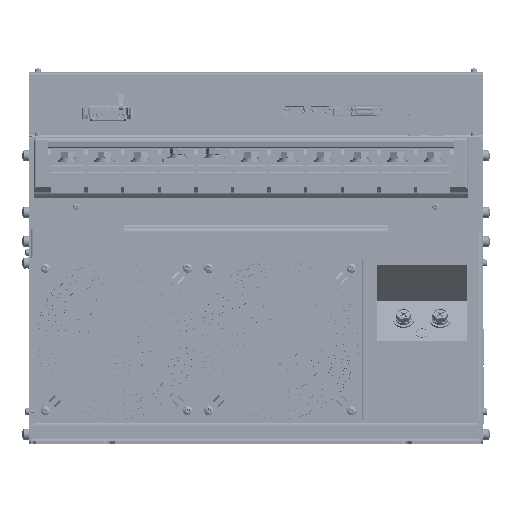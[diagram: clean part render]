
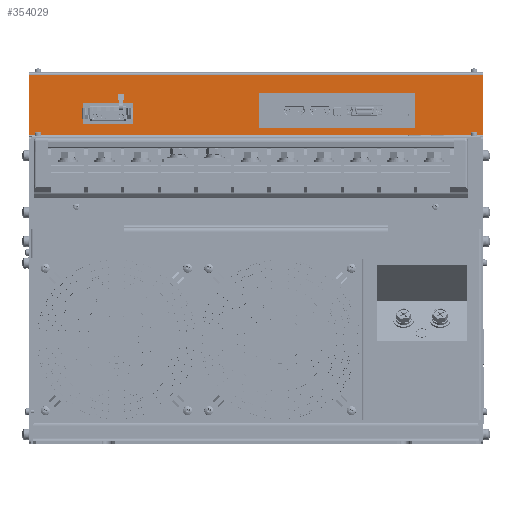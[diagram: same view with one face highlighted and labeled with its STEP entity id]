
A CAD part, front view. The second image highlights one B-rep face of the part: STEP entity #354029.
In plain terms, the highlighted planar face has unit normal (0, -1, 0).
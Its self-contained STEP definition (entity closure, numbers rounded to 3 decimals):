
#1935 = LINE ( 'NONE', #472786, #81811 ) ;
#11204 = DIRECTION ( 'NONE',  ( -1., 0., 0. ) ) ;
#14739 = VERTEX_POINT ( 'NONE', #441284 ) ;
#17425 = CARTESIAN_POINT ( 'NONE',  ( 2.3, 74.5, 286.2 ) ) ;
#21556 = VERTEX_POINT ( 'NONE', #150082 ) ;
#27361 = VERTEX_POINT ( 'NONE', #376679 ) ;
#33447 = VECTOR ( 'NONE', #104401, 1000. ) ;
#44003 = LINE ( 'NONE', #241580, #560616 ) ;
#49899 = VERTEX_POINT ( 'NONE', #273594 ) ;
#53944 = VECTOR ( 'NONE', #174066, 1000. ) ;
#63899 = DIRECTION ( 'NONE',  ( 0., -1., 0. ) ) ;
#65912 = CARTESIAN_POINT ( 'NONE',  ( 0., 74.5, 249. ) ) ;
#67238 = LINE ( 'NONE', #96811, #547596 ) ;
#69939 = PLANE ( 'NONE',  #394764 ) ;
#75500 = ORIENTED_EDGE ( 'NONE', *, *, #135290, .F. ) ;
#79024 = FACE_BOUND ( 'NONE', #165638, .T. ) ;
#80590 = CARTESIAN_POINT ( 'NONE',  ( -151.6, 74.5, 277.6 ) ) ;
#81811 = VECTOR ( 'NONE', #193976, 1000. ) ;
#89776 = EDGE_LOOP ( 'NONE', ( #75500, #323622, #412437, #190254 ) ) ;
#96811 = CARTESIAN_POINT ( 'NONE',  ( 2.3, 74.5, 256.2 ) ) ;
#102068 = VERTEX_POINT ( 'NONE', #225235 ) ;
#104401 = DIRECTION ( 'NONE',  ( 0., 0., -1. ) ) ;
#113595 = VECTOR ( 'NONE', #169533, 1000. ) ;
#119584 = VERTEX_POINT ( 'NONE', #449585 ) ;
#123625 = ORIENTED_EDGE ( 'NONE', *, *, #298524, .F. ) ;
#125236 = VERTEX_POINT ( 'NONE', #412847 ) ;
#135290 = EDGE_CURVE ( 'NONE', #102068, #14739, #439707, .T. ) ;
#142008 = ORIENTED_EDGE ( 'NONE', *, *, #350764, .F. ) ;
#146093 = VERTEX_POINT ( 'NONE', #490428 ) ;
#150018 = VERTEX_POINT ( 'NONE', #17425 ) ;
#150019 = DIRECTION ( 'NONE',  ( 1., 0., 0. ) ) ;
#150082 = CARTESIAN_POINT ( 'NONE',  ( -107.6, 74.5, 259.6 ) ) ;
#162672 = VERTEX_POINT ( 'NONE', #225288 ) ;
#165638 = EDGE_LOOP ( 'NONE', ( #218983, #518349, #236538, #257943 ) ) ;
#169533 = DIRECTION ( 'NONE',  ( -1., 0., 0. ) ) ;
#169813 = CARTESIAN_POINT ( 'NONE',  ( -198.6, 74.5, 302.4 ) ) ;
#174066 = DIRECTION ( 'NONE',  ( 0., 0., -1. ) ) ;
#178733 = CARTESIAN_POINT ( 'NONE',  ( 198.6, 74.5, 250. ) ) ;
#190254 = ORIENTED_EDGE ( 'NONE', *, *, #459357, .F. ) ;
#190854 = VECTOR ( 'NONE', #362914, 1000. ) ;
#193976 = DIRECTION ( 'NONE',  ( 1., 0., 0. ) ) ;
#197245 = DIRECTION ( 'NONE',  ( 0., 0., 1. ) ) ;
#199846 = CARTESIAN_POINT ( 'NONE',  ( 2.3, 74.5, 286.2 ) ) ;
#202050 = DIRECTION ( 'NONE',  ( -1., 0., 0. ) ) ;
#214947 = VERTEX_POINT ( 'NONE', #594963 ) ;
#218983 = ORIENTED_EDGE ( 'NONE', *, *, #280214, .F. ) ;
#224560 = EDGE_CURVE ( 'NONE', #21556, #162672, #581673, .T. ) ;
#224825 = FACE_OUTER_BOUND ( 'NONE', #379106, .T. ) ;
#225235 = CARTESIAN_POINT ( 'NONE',  ( -151.6, 74.5, 277.6 ) ) ;
#225288 = CARTESIAN_POINT ( 'NONE',  ( -107.6, 74.5, 277.6 ) ) ;
#236538 = ORIENTED_EDGE ( 'NONE', *, *, #290445, .F. ) ;
#241580 = CARTESIAN_POINT ( 'NONE',  ( 2.3, 74.5, 286.2 ) ) ;
#244041 = VECTOR ( 'NONE', #510645, 1000. ) ;
#244157 = VECTOR ( 'NONE', #11204, 1000. ) ;
#245633 = CARTESIAN_POINT ( 'NONE',  ( -151.6, 74.5, 259.6 ) ) ;
#247808 = ORIENTED_EDGE ( 'NONE', *, *, #325000, .F. ) ;
#257943 = ORIENTED_EDGE ( 'NONE', *, *, #302192, .F. ) ;
#273594 = CARTESIAN_POINT ( 'NONE',  ( 198.6, 74.5, 302.4 ) ) ;
#280214 = EDGE_CURVE ( 'NONE', #150018, #125236, #579305, .T. ) ;
#290445 = EDGE_CURVE ( 'NONE', #214947, #146093, #396941, .T. ) ;
#298524 = EDGE_CURVE ( 'NONE', #49899, #568192, #549896, .T. ) ;
#302192 = EDGE_CURVE ( 'NONE', #125236, #214947, #67238, .T. ) ;
#307294 = EDGE_CURVE ( 'NONE', #162672, #102068, #367857, .T. ) ;
#310603 = CARTESIAN_POINT ( 'NONE',  ( 198.6, 74.5, 249. ) ) ;
#319416 = FACE_BOUND ( 'NONE', #89776, .T. ) ;
#323622 = ORIENTED_EDGE ( 'NONE', *, *, #307294, .F. ) ;
#325000 = EDGE_CURVE ( 'NONE', #568192, #119584, #564876, .T. ) ;
#328609 = DIRECTION ( 'NONE',  ( 1., 0., 0. ) ) ;
#333598 = CARTESIAN_POINT ( 'NONE',  ( -107.6, 74.5, 277.6 ) ) ;
#341095 = EDGE_CURVE ( 'NONE', #146093, #150018, #44003, .T. ) ;
#350764 = EDGE_CURVE ( 'NONE', #27361, #49899, #1935, .T. ) ;
#354029 = ADVANCED_FACE ( 'NONE', ( #224825, #319416, #79024 ), #69939, .T. ) ;
#362914 = DIRECTION ( 'NONE',  ( 0., 0., 1. ) ) ;
#366920 = EDGE_CURVE ( 'NONE', #119584, #27361, #452961, .T. ) ;
#367857 = LINE ( 'NONE', #568523, #244157 ) ;
#376679 = CARTESIAN_POINT ( 'NONE',  ( -198.6, 74.5, 302.4 ) ) ;
#379106 = EDGE_LOOP ( 'NONE', ( #565877, #247808, #123625, #142008 ) ) ;
#382252 = VECTOR ( 'NONE', #456987, 1000. ) ;
#394764 = AXIS2_PLACEMENT_3D ( 'NONE', #65912, #63899, #202050 ) ;
#396941 = LINE ( 'NONE', #465826, #244041 ) ;
#412437 = ORIENTED_EDGE ( 'NONE', *, *, #224560, .F. ) ;
#412847 = CARTESIAN_POINT ( 'NONE',  ( 2.3, 74.5, 256.2 ) ) ;
#418566 = DIRECTION ( 'NONE',  ( -1., 0., 0. ) ) ;
#428623 = VECTOR ( 'NONE', #197245, 1000. ) ;
#439707 = LINE ( 'NONE', #80590, #53944 ) ;
#441284 = CARTESIAN_POINT ( 'NONE',  ( -151.6, 74.5, 259.6 ) ) ;
#449585 = CARTESIAN_POINT ( 'NONE',  ( -198.6, 74.5, 250. ) ) ;
#451191 = VECTOR ( 'NONE', #150019, 1000. ) ;
#452961 = LINE ( 'NONE', #169813, #190854 ) ;
#456987 = DIRECTION ( 'NONE',  ( 0., 0., -1. ) ) ;
#459357 = EDGE_CURVE ( 'NONE', #14739, #21556, #582674, .T. ) ;
#465826 = CARTESIAN_POINT ( 'NONE',  ( 139.3, 74.5, 286.2 ) ) ;
#472786 = CARTESIAN_POINT ( 'NONE',  ( 198.6, 74.5, 302.4 ) ) ;
#490428 = CARTESIAN_POINT ( 'NONE',  ( 139.3, 74.5, 286.2 ) ) ;
#510645 = DIRECTION ( 'NONE',  ( 0., 0., 1. ) ) ;
#518349 = ORIENTED_EDGE ( 'NONE', *, *, #341095, .F. ) ;
#547596 = VECTOR ( 'NONE', #328609, 1000. ) ;
#549896 = LINE ( 'NONE', #310603, #382252 ) ;
#560616 = VECTOR ( 'NONE', #418566, 1000. ) ;
#564876 = LINE ( 'NONE', #594769, #113595 ) ;
#565877 = ORIENTED_EDGE ( 'NONE', *, *, #366920, .F. ) ;
#568192 = VERTEX_POINT ( 'NONE', #178733 ) ;
#568523 = CARTESIAN_POINT ( 'NONE',  ( -151.6, 74.5, 277.6 ) ) ;
#579305 = LINE ( 'NONE', #199846, #33447 ) ;
#581673 = LINE ( 'NONE', #333598, #428623 ) ;
#582674 = LINE ( 'NONE', #245633, #451191 ) ;
#594769 = CARTESIAN_POINT ( 'NONE',  ( 198.6, 74.5, 250. ) ) ;
#594963 = CARTESIAN_POINT ( 'NONE',  ( 139.3, 74.5, 256.2 ) ) ;
